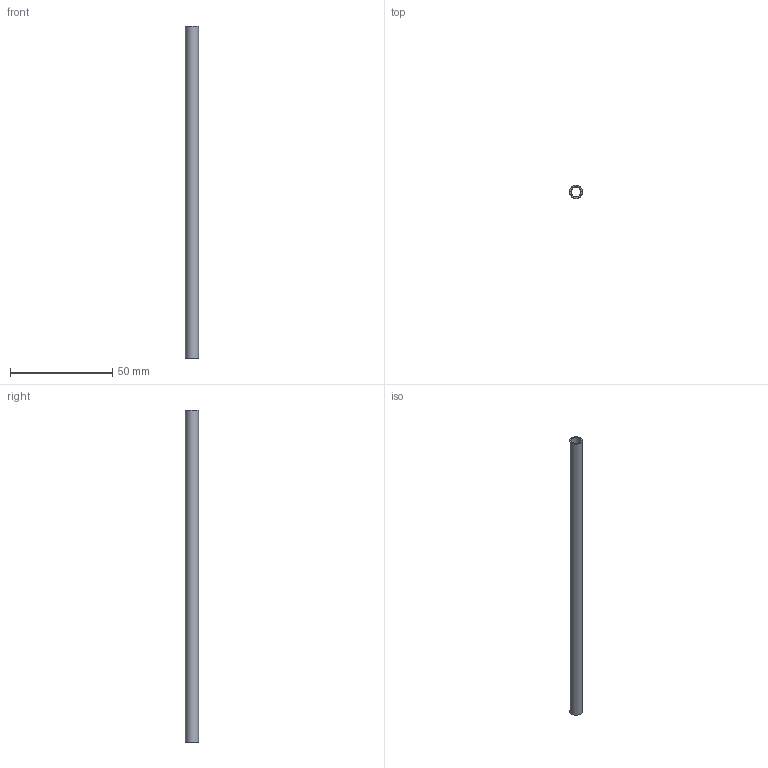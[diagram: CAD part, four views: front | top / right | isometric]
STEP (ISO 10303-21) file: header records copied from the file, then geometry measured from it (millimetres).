
FILE_DESCRIPTION(('Open CASCADE Model'),'2;1');
FILE_NAME('Open CASCADE Shape Model','2026-10-21T10:33:18',('Author'),( 'Open CASCADE'),'Open CASCADE STEP processor 7.9','Open CASCADE 7.9' ,'Unknown');
FILE_SCHEMA(('AUTOMOTIVE_DESIGN { 1 0 10303 214 1 1 1 1 }'));
Length unit declared in the file: millimetre
Products named in the file (1): Open CASCADE STEP translator 7.9 14
Bounding box: 6.35 x 6.35 x 162 mm (x, y, z)
Volume: 2038 mm3; surface area: 5766 mm2
Topology: 1 solids, 1 shells, 4 faces, 6 edges, 4 vertices
Faces by surface type: cylinder 2, plane 2
Full cylindrical faces by diameter (mm): 4.93 x1, 6.35 x1
Entity records: 186 total; most frequent: DIRECTION 32, CARTESIAN_POINT 27, ORIENTED_EDGE 12, PCURVE 12, DEFINITIONAL_REPRESENTATION 12, LINE 10, VECTOR 10, AXIS2_PLACEMENT_3D 9
